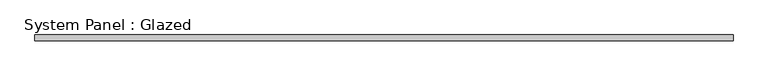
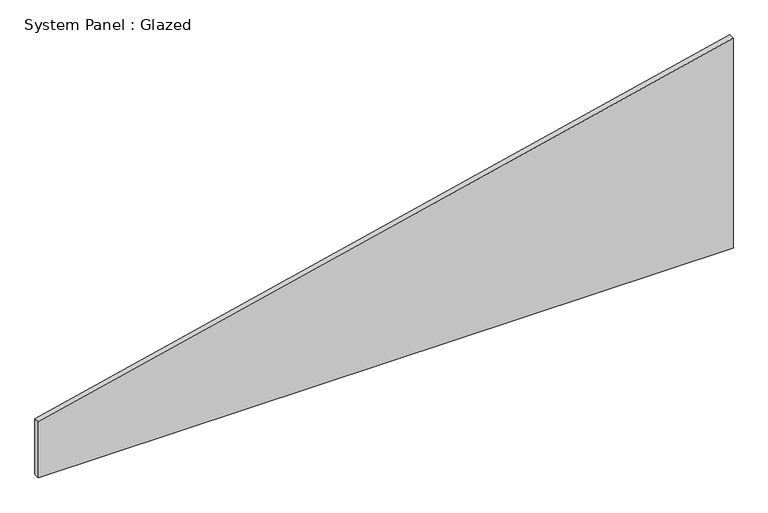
"""IFC4 building model written with IfcOpenShell, lengths in millimetres: plate geometry, System Panel : Glazed."""

from ifc_helpers import new_model, si_unit, frame, origin, place, context, project, spatial, polyline, outline, extrude, source, transform, mapped, element, save


def system_panel_glazed_99161af7(model_context):
    return source(origin(), model_context, "Body", "SweptSolid", [
        extrude(outline(polyline([(0.0, -1504.95), (0.0, 1504.95), (961.324791, 1504.95), (255.7056741, -1504.95), (0.0, -1504.95)])), frame((0.0, 19.05, 0.0), z_axis=(0.0, 1.0, 0.0), x_axis=(0.0, 0.0, 1.0)), (0.0, 0.0, 1.0), 25.4),
    ])


if __name__ == "__main__":
    model = new_model("IFC4")
    model_context = context("Model", 3, world=origin())
    ifc_project = project(units=[si_unit("LENGTHUNIT", "METRE", prefix="MILLI")], contexts=[model_context])
    site = spatial("IfcSite", under=ifc_project)
    building = spatial("IfcBuilding", under=site)
    placement = place(None, origin())
    system_panel_glazed_shape = system_panel_glazed_99161af7(model_context)
    element("IfcPlate", 1, ObjectType="System Panel : Glazed", at=placement, inside=building, context=model_context, shape_type="MappedRepresentation", body=[
        mapped(system_panel_glazed_shape, transform((0.0, 0.0, 0.0), x_axis=(1.0, 0.0, 0.0), y_axis=(0.0, 1.0, 0.0), z_axis=(0.0, 0.0, 1.0))),
    ])
    save(model, "model.ifc")
